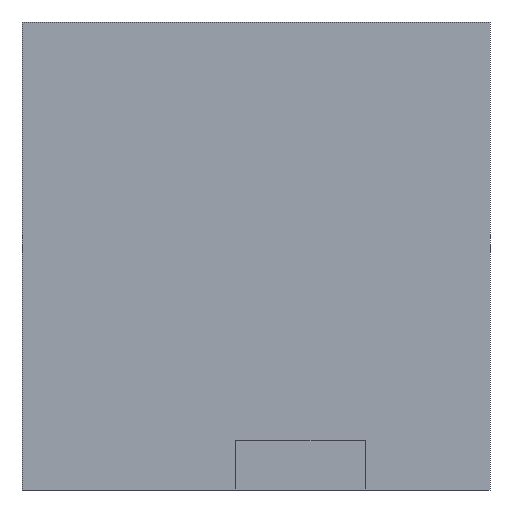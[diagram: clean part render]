
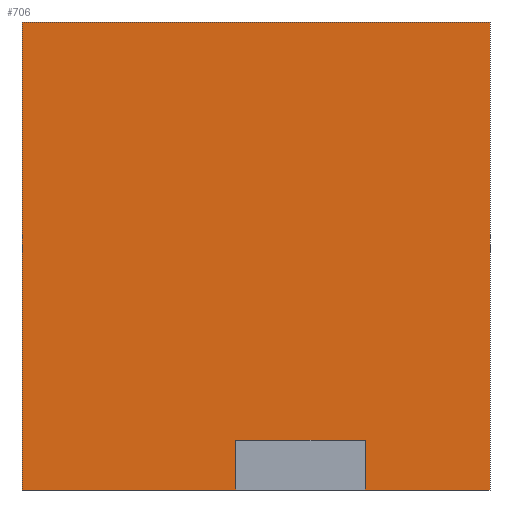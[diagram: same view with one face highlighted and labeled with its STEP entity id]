
A CAD part, left-side view. The second image highlights one B-rep face of the part: STEP entity #706.
In plain terms, the highlighted planar face has unit normal (-1, 0, 0).
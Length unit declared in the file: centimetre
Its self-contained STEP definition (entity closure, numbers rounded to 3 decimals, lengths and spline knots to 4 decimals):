
#45 = LINE ( 'NONE', #435, #560 ) ;
#49 = AXIS2_PLACEMENT_3D ( 'NONE', #358, #663, #602 ) ;
#50 = EDGE_LOOP ( 'NONE', ( #200, #618, #325, #156, #82, #456, #613, #514 ) ) ;
#53 = CARTESIAN_POINT ( 'NONE',  ( 0., 1000., 1000. ) ) ;
#54 = EDGE_CURVE ( 'NONE', #289, #81, #463, .T. ) ;
#67 = EDGE_CURVE ( 'NONE', #138, #497, #45, .T. ) ;
#81 = VERTEX_POINT ( 'NONE', #616 ) ;
#82 = ORIENTED_EDGE ( 'NONE', *, *, #67, .F. ) ;
#101 = CARTESIAN_POINT ( 'NONE',  ( 0., 266.6751, 0. ) ) ;
#118 = LINE ( 'NONE', #403, #416 ) ;
#124 = DIRECTION ( 'NONE',  ( 0., -1., 0. ) ) ;
#138 = VERTEX_POINT ( 'NONE', #53 ) ;
#156 = ORIENTED_EDGE ( 'NONE', *, *, #634, .F. ) ;
#166 = CARTESIAN_POINT ( 'NONE',  ( 0., 1000., 1000. ) ) ;
#167 = DIRECTION ( 'NONE',  ( 0., -1., 0. ) ) ;
#200 = ORIENTED_EDGE ( 'NONE', *, *, #628, .F. ) ;
#204 = CARTESIAN_POINT ( 'NONE',  ( 0., 1000., 0. ) ) ;
#246 = VECTOR ( 'NONE', #124, 100. ) ;
#270 = VECTOR ( 'NONE', #605, 100. ) ;
#284 = DIRECTION ( 'NONE',  ( 0., -1., 0. ) ) ;
#287 = CARTESIAN_POINT ( 'NONE',  ( 0., 543.3066, 105.9069 ) ) ;
#289 = VERTEX_POINT ( 'NONE', #101 ) ;
#299 = VERTEX_POINT ( 'NONE', #511 ) ;
#308 = FACE_OUTER_BOUND ( 'NONE', #50, .T. ) ;
#325 = ORIENTED_EDGE ( 'NONE', *, *, #54, .T. ) ;
#326 = EDGE_CURVE ( 'NONE', #138, #626, #763, .T. ) ;
#338 = DIRECTION ( 'NONE',  ( 0., 0., -1. ) ) ;
#358 = CARTESIAN_POINT ( 'NONE',  ( 0., 1000., 1000. ) ) ;
#365 = LINE ( 'NONE', #428, #246 ) ;
#403 = CARTESIAN_POINT ( 'NONE',  ( 0., 266.6751, 105.9069 ) ) ;
#416 = VECTOR ( 'NONE', #464, 100. ) ;
#428 = CARTESIAN_POINT ( 'NONE',  ( 0., 1000., 0. ) ) ;
#435 = CARTESIAN_POINT ( 'NONE',  ( 0., 1000., 1000. ) ) ;
#444 = VERTEX_POINT ( 'NONE', #659 ) ;
#453 = DIRECTION ( 'NONE',  ( 0., 0., -1. ) ) ;
#456 = ORIENTED_EDGE ( 'NONE', *, *, #326, .T. ) ;
#463 = LINE ( 'NONE', #204, #489 ) ;
#464 = DIRECTION ( 'NONE',  ( 0., 1., 0. ) ) ;
#474 = LINE ( 'NONE', #714, #623 ) ;
#484 = LINE ( 'NONE', #540, #270 ) ;
#489 = VECTOR ( 'NONE', #167, 100. ) ;
#497 = VERTEX_POINT ( 'NONE', #713 ) ;
#511 = CARTESIAN_POINT ( 'NONE',  ( 0., 543.3066, 0. ) ) ;
#514 = ORIENTED_EDGE ( 'NONE', *, *, #685, .F. ) ;
#528 = CARTESIAN_POINT ( 'NONE',  ( 0., 266.6751, 105.9069 ) ) ;
#540 = CARTESIAN_POINT ( 'NONE',  ( 0., 543.3066, 105.9069 ) ) ;
#543 = EDGE_CURVE ( 'NONE', #444, #289, #590, .T. ) ;
#560 = VECTOR ( 'NONE', #284, 100. ) ;
#580 = CARTESIAN_POINT ( 'NONE',  ( 0., 1000., 0. ) ) ;
#590 = LINE ( 'NONE', #528, #669 ) ;
#602 = DIRECTION ( 'NONE',  ( 0., 0., -1. ) ) ;
#605 = DIRECTION ( 'NONE',  ( 0., 0., -1. ) ) ;
#607 = VECTOR ( 'NONE', #453, 100. ) ;
#613 = ORIENTED_EDGE ( 'NONE', *, *, #768, .T. ) ;
#616 = CARTESIAN_POINT ( 'NONE',  ( 0., 0., 0. ) ) ;
#618 = ORIENTED_EDGE ( 'NONE', *, *, #543, .T. ) ;
#623 = VECTOR ( 'NONE', #338, 100. ) ;
#626 = VERTEX_POINT ( 'NONE', #580 ) ;
#628 = EDGE_CURVE ( 'NONE', #444, #672, #118, .T. ) ;
#634 = EDGE_CURVE ( 'NONE', #497, #81, #474, .T. ) ;
#659 = CARTESIAN_POINT ( 'NONE',  ( 0., 266.6751, 105.9069 ) ) ;
#663 = DIRECTION ( 'NONE',  ( 1., 0., 0. ) ) ;
#669 = VECTOR ( 'NONE', #774, 100. ) ;
#672 = VERTEX_POINT ( 'NONE', #287 ) ;
#685 = EDGE_CURVE ( 'NONE', #672, #299, #484, .T. ) ;
#706 = ADVANCED_FACE ( 'NONE', ( #308 ), #725, .F. ) ;
#713 = CARTESIAN_POINT ( 'NONE',  ( 0., 0., 1000. ) ) ;
#714 = CARTESIAN_POINT ( 'NONE',  ( 0., 0., 1000. ) ) ;
#725 = PLANE ( 'NONE',  #49 ) ;
#763 = LINE ( 'NONE', #166, #607 ) ;
#768 = EDGE_CURVE ( 'NONE', #626, #299, #365, .T. ) ;
#774 = DIRECTION ( 'NONE',  ( 0., 0., -1. ) ) ;
